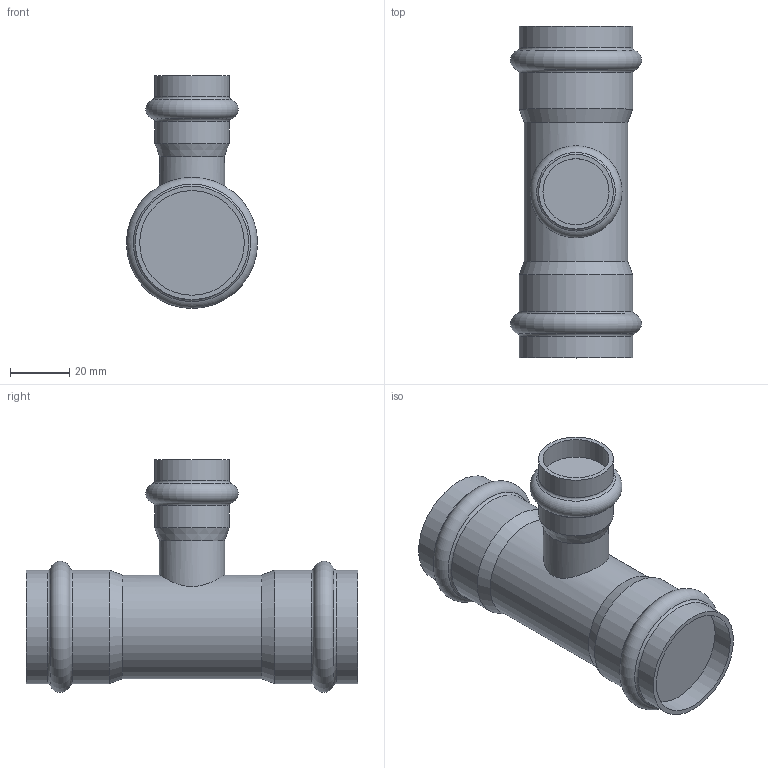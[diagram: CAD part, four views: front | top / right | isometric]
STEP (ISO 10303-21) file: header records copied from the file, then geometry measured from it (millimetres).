
FILE_DESCRIPTION(('STEP AP203'), '1');
FILE_NAME('VTi.931.I.352235', '', ('UNSPECIFIED'), ('UNSPECIFIED'), 'C3D Converter', 'C3D Toolkit', '');
FILE_SCHEMA(('CONFIG_CONTROL_DESIGN'));
Length unit declared in the file: millimetre
Bounding box: 44.28 x 112 x 78.64 mm (x, y, z)
Volume: 125806.2 mm3; surface area: 21812.2 mm2
Topology: 1 solids, 1 shells, 29 faces, 53 edges, 29 vertices
Faces by surface type: cylinder 11, torus 9, plane 6, cone 3
Full cylindrical faces by diameter (mm): 22 x1, 22.3 x1, 25.2 x2, 35 x1, 35.3 x2, 38.3 x4
Entity records: 854 total; most frequent: CARTESIAN_POINT 324, DIRECTION 114, ORIENTED_EDGE 58, AXIS2_PLACEMENT_3D 57, EDGE_LOOP 56, FACE_OUTER_BOUND 45, ADVANCED_FACE 29, EDGE_CURVE 29
